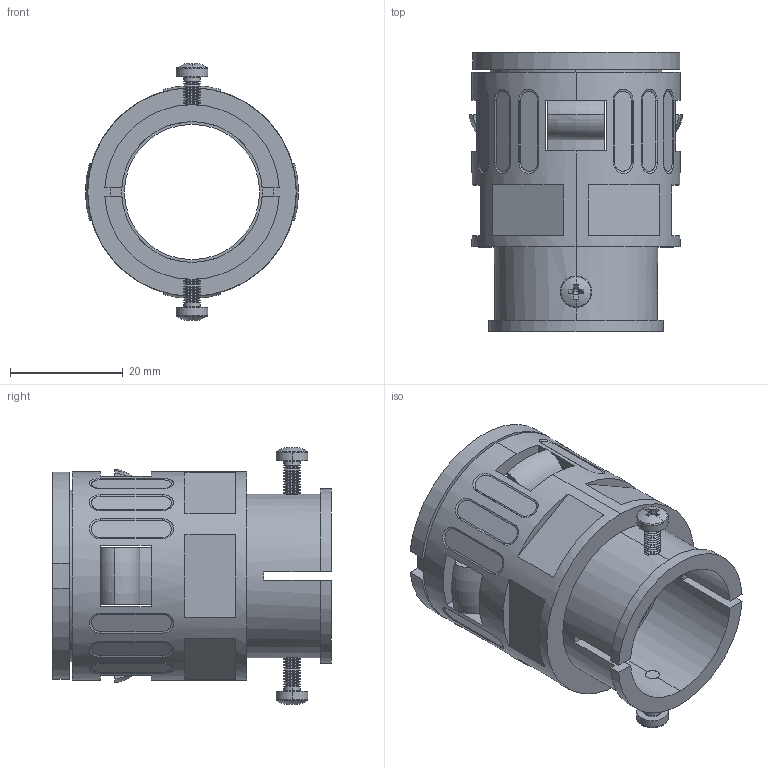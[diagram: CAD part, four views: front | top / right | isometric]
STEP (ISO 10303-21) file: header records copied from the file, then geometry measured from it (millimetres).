
FILE_DESCRIPTION (( 'STEP AP214' ), '1' );
FILE_NAME ('0000002556.STEP', '2015-11-24T14:43:21', ( 'HP' ), ( 'Hewlett-Packard Company' ), 'SwSTEP 2.0', 'SolidWorks 2014', '' );
FILE_SCHEMA (( 'AUTOMOTIVE_DESIGN' ));
Length unit declared in the file: millimetre
Products named in the file (5): pan head cross recess screw_din_ISO 7045 - M3 x 8 - Z --- 8S; 0000002555; 0000002554; 0000002553; 0000002556
Assembly tree (5 placements, depth 2):
  0000002556
    0000002553
    0000002554
    0000002555
    pan head cross recess screw_din_ISO 7045 - M3 x 8 - Z --- 8S  x2
Bounding box: 37.8 x 49.5 x 45.71 mm (x, y, z)
Volume: 15547.3 mm3; surface area: 18585.8 mm2
Topology: 5 solids, 5 shells, 502 faces, 1315 edges, 832 vertices
Faces by surface type: plane 157, cone 142, cylinder 137, torus 38, bspline 24, sphere 4
Entity records: 15157 total; most frequent: CARTESIAN_POINT 5575, DIRECTION 2060, ORIENTED_EDGE 1962, EDGE_CURVE 981, AXIS2_PLACEMENT_3D 823, VERTEX_POINT 628, CIRCLE 466, VECTOR 414
